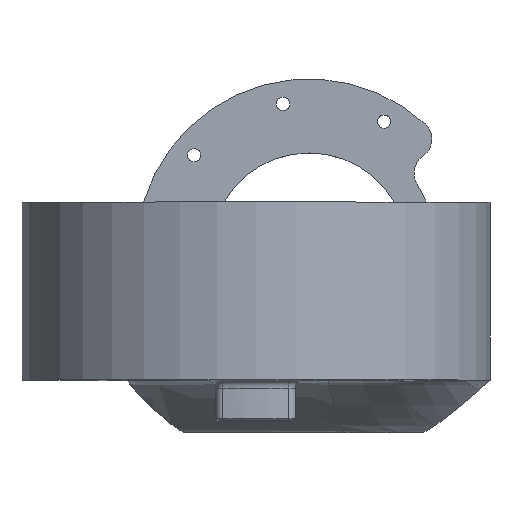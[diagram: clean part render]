
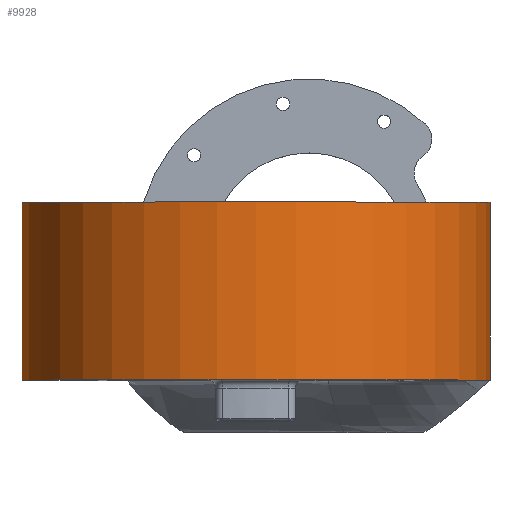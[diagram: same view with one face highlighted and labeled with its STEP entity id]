
A CAD part, top view. The second image highlights one B-rep face of the part: STEP entity #9928.
In plain terms, the highlighted cylindrical face has radius 57 mm (diameter 114 mm), a partial arc.
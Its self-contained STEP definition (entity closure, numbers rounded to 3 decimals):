
#429=CARTESIAN_POINT('',(200.,-26.5,346.5));
#430=DIRECTION('',(0.,1.,0.));
#431=DIRECTION('',(-0.48,0.,-0.877));
#432=AXIS2_PLACEMENT_3D('',#429,#430,#431);
#434=CARTESIAN_POINT('',(200.,-26.5,346.5));
#435=DIRECTION('',(0.,1.,0.));
#436=DIRECTION('',(0.,0.,1.));
#437=AXIS2_PLACEMENT_3D('',#434,#435,#436);
#645=CARTESIAN_POINT('',(200.,16.75,346.5));
#646=DIRECTION('',(0.,-1.,0.));
#647=DIRECTION('',(1.,0.,0.));
#648=AXIS2_PLACEMENT_3D('',#645,#646,#647);
#650=CARTESIAN_POINT('',(200.,16.75,346.5));
#651=DIRECTION('',(0.,-1.,0.));
#652=DIRECTION('',(0.,0.,1.));
#653=AXIS2_PLACEMENT_3D('',#650,#651,#652);
#2258=DIRECTION('',(0.,-1.,0.));
#2259=VECTOR('',#2258,43.25);
#2260=CARTESIAN_POINT('',(257.,16.75,346.5));
#2261=LINE('',#2260,#2259);
#2266=DIRECTION('',(0.,-1.,0.));
#2267=VECTOR('',#2266,43.25);
#2268=CARTESIAN_POINT('',(172.659,16.75,296.485));
#2269=LINE('',#2268,#2267);
#3589=CARTESIAN_POINT('',(257.,16.75,346.5));
#3590=VERTEX_POINT('',#3589);
#3591=CARTESIAN_POINT('',(200.,16.75,403.5));
#3592=VERTEX_POINT('',#3591);
#3593=CARTESIAN_POINT('',(172.659,16.75,296.485));
#3594=VERTEX_POINT('',#3593);
#3713=CARTESIAN_POINT('',(172.659,-26.5,296.485));
#3714=VERTEX_POINT('',#3713);
#3715=CARTESIAN_POINT('',(200.,-26.5,403.5));
#3716=VERTEX_POINT('',#3715);
#3717=CARTESIAN_POINT('',(257.,-26.5,346.5));
#3718=VERTEX_POINT('',#3717);
#9914=CARTESIAN_POINT('',(200.,-1141.618,346.5));
#9915=DIRECTION('',(0.,1.,0.));
#9916=DIRECTION('',(0.,0.,1.));
#9917=AXIS2_PLACEMENT_3D('',#9914,#9915,#9916);
#9918=CYLINDRICAL_SURFACE('',#9917,57.);
#9919=ORIENTED_EDGE('',*,*,#5876,.F.);
#9920=ORIENTED_EDGE('',*,*,#9905,.T.);
#9921=ORIENTED_EDGE('',*,*,#5739,.F.);
#9922=ORIENTED_EDGE('',*,*,#5737,.F.);
#9924=ORIENTED_EDGE('',*,*,#9923,.F.);
#9925=ORIENTED_EDGE('',*,*,#5878,.F.);
#9926=EDGE_LOOP('',(#9919,#9920,#9921,#9922,#9924,#9925));
#9927=FACE_OUTER_BOUND('',#9926,.F.);
#9928=ADVANCED_FACE('',(#9927),#9918,.T.);
#433=CIRCLE('',#432,57.);
#438=CIRCLE('',#437,57.);
#649=CIRCLE('',#648,57.);
#654=CIRCLE('',#653,57.);
#5737=EDGE_CURVE('',#3714,#3716,#433,.T.);
#5739=EDGE_CURVE('',#3716,#3718,#438,.T.);
#5876=EDGE_CURVE('',#3590,#3592,#649,.T.);
#5878=EDGE_CURVE('',#3592,#3594,#654,.T.);
#9905=EDGE_CURVE('',#3590,#3718,#2261,.T.);
#9923=EDGE_CURVE('',#3594,#3714,#2269,.T.);
